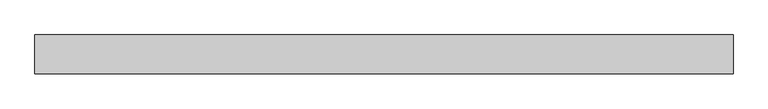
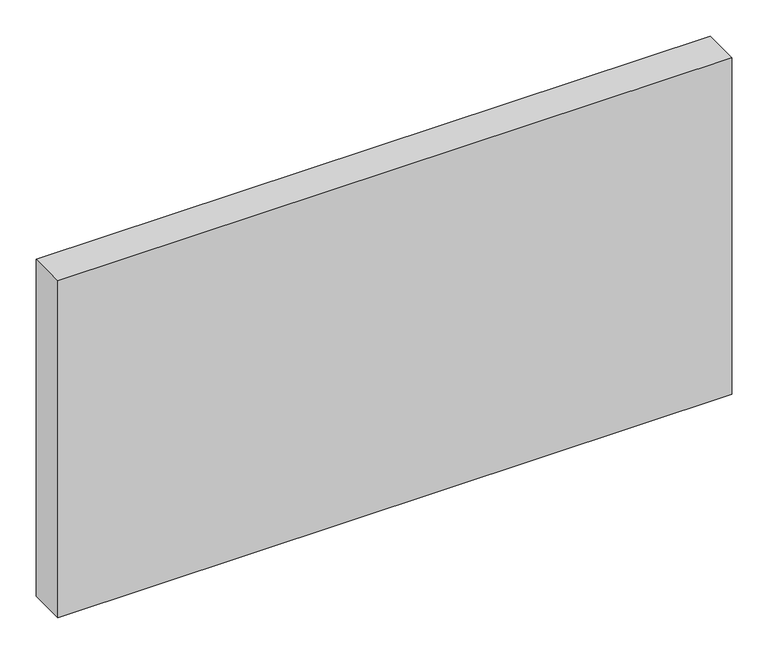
"""IFC4 building model written with IfcOpenShell, lengths in millimetres: plate geometry, Системная панель : Алюкобонд серый."""

import ifcopenshell
import ifcopenshell.guid

model = None  # the IFC model being written
_history = None  # IfcOwnerHistory: only IFC2X3 demands one
_inside = {}  # id of a spatial element -> (the spatial element, [elements in it])
_under = {}  # id of a project, library or spatial element -> (it, [spatial elements below it])
_declared = {}  # id of a project -> (the project, [libraries it declares])
_typed = {}  # id of a type object -> (the type object, [elements of that type])
_made_of = {}  # id of a material, layer set ... -> (it, [elements and type objects made of it])


def new_model(schema):
    """Start an empty IFC model of exactly this schema.

    Asked for "IFC4X3", IfcOpenShell would pick the latest addendum, in which some entities
    have other attributes; the version numbers below select the first issue.
    IFC2X3 requires an IfcOwnerHistory on every rooted entity: one is made here for all.
    """
    global model, _history
    if schema == "IFC4X3":
        model = ifcopenshell.file(schema_version=(4, 3, 0, 0))
    else:
        model = ifcopenshell.file(schema=schema)
    _inside.clear()
    _under.clear()
    _declared.clear()
    _typed.clear()
    _made_of.clear()
    _history = None
    if model.schema == "IFC2X3":
        org = make("IfcOrganization", Name="unknown")
        user = make(
            "IfcPersonAndOrganization",
            ThePerson=make("IfcPerson", FamilyName="unknown"),
            TheOrganization=org,
        )
        app = make(
            "IfcApplication",
            ApplicationDeveloper=org,
            Version="unknown",
            ApplicationFullName="unknown",
            ApplicationIdentifier="unknown",
        )
        _history = make(
            "IfcOwnerHistory",
            OwningUser=user,
            OwningApplication=app,
            ChangeAction="ADDED",
            CreationDate=0,
        )
    return model


def make(cls, **values):
    """One entity of the class cls with the attributes given. An attribute that is None is left unset."""
    return model.create_entity(
        cls, **{name: value for name, value in values.items() if value is not None}
    )


def rooted(cls, **values):
    """An entity with a GlobalId (a new one), such as an element, a storey or a relation."""
    return make(cls, GlobalId=ifcopenshell.guid.new(), OwnerHistory=_history, **values)


def si_unit(unit_type, name, prefix=None):
    """IfcSIUnit, for example si_unit("LENGTHUNIT", "METRE", prefix="MILLI")."""
    return make("IfcSIUnit", UnitType=unit_type, Prefix=prefix, Name=name)


def assignment(units):
    """IfcUnitAssignment: the units of a project."""
    return None if units is None else make("IfcUnitAssignment", Units=units)


def point(xyz):
    """IfcCartesianPoint."""
    return None if xyz is None else make("IfcCartesianPoint", Coordinates=xyz)


def direction(xyz):
    """IfcDirection."""
    return None if xyz is None else make("IfcDirection", DirectionRatios=xyz)


def frame(location, z_axis=None, x_axis=None):
    """IfcAxis2Placement3D, a coordinate frame: its origin and axes. An axis left out is left unset."""
    return make(
        "IfcAxis2Placement3D",
        Location=point(location),
        Axis=direction(z_axis),
        RefDirection=direction(x_axis),
    )


def origin():
    """The frame at (0, 0, 0) with its axes left unset."""
    return frame((0.0, 0.0, 0.0))


def origin_with_axes():
    """The frame at (0, 0, 0) with the z axis (0, 0, 1) and the x axis (1, 0, 0) written out."""
    return frame((0.0, 0.0, 0.0), z_axis=(0.0, 0.0, 1.0), x_axis=(1.0, 0.0, 0.0))


def place(relative_to, where):
    """IfcLocalPlacement: puts the frame where relative to a parent placement (None: the world)."""
    return make(
        "IfcLocalPlacement", PlacementRelTo=relative_to, RelativePlacement=where
    )


def context(
    kind, dimensions, precision=None, world=None, true_north=None, identifier=None
):
    """IfcGeometricRepresentationContext, for example the 3D "Model" context."""
    return make(
        "IfcGeometricRepresentationContext",
        ContextIdentifier=identifier,
        ContextType=kind,
        CoordinateSpaceDimension=dimensions,
        Precision=precision,
        WorldCoordinateSystem=world,
        TrueNorth=true_north,
    )


def project(units=None, contexts=None):
    """IfcProject with its units and contexts."""
    return rooted(
        "IfcProject",
        Name="project",
        RepresentationContexts=contexts,
        UnitsInContext=assignment(units),
    )


def spatial(cls, under=None, at=None, **own):
    """A site, building, storey or space (cls), placed at a placement, below another one or the project."""
    s = rooted(cls, ObjectPlacement=at, **own)
    if under is not None:
        _under.setdefault(under.id(), (under, []))[1].append(s)
    return s


def polyline(points):
    """IfcPolyline through the points."""
    return make("IfcPolyline", Points=[point(p) for p in points])


def outline(outer, holes=None, kind="AREA"):
    """IfcArbitraryClosedProfileDef: a profile drawn as a closed curve; with holes, ...WithVoids."""
    if holes is None:
        return make("IfcArbitraryClosedProfileDef", ProfileType=kind, OuterCurve=outer)
    return make(
        "IfcArbitraryProfileDefWithVoids",
        ProfileType=kind,
        OuterCurve=outer,
        InnerCurves=holes,
    )


def extrude(swept, where, along, depth):
    """IfcExtrudedAreaSolid: the profile swept, set in the frame where, extruded along a direction by depth."""
    return make(
        "IfcExtrudedAreaSolid",
        SweptArea=swept,
        Position=where,
        ExtrudedDirection=direction(along),
        Depth=depth,
    )


def shape(context_of_items, identifier, shape_type, items):
    """IfcShapeRepresentation: the items that make up one representation, for example the "Body"."""
    return make(
        "IfcShapeRepresentation",
        ContextOfItems=context_of_items,
        RepresentationIdentifier=identifier,
        RepresentationType=shape_type,
        Items=items,
    )


def source(mapping_origin, context_of_items, identifier, shape_type, items):
    """IfcRepresentationMap: a shape defined once, which mapped items show again and again."""
    return make(
        "IfcRepresentationMap",
        MappingOrigin=mapping_origin,
        MappedRepresentation=shape(context_of_items, identifier, shape_type, items),
    )


def transform(
    local_origin,
    x_axis=None,
    y_axis=None,
    z_axis=None,
    scale=None,
    scale2=None,
    scale3=None,
    uniform=True,
):
    """IfcCartesianTransformationOperator3D, or its non-uniform kind. x_axis, y_axis, z_axis: its Axis1, 2, 3."""
    if uniform:
        return make(
            "IfcCartesianTransformationOperator3D",
            Axis1=direction(x_axis),
            Axis2=direction(y_axis),
            LocalOrigin=point(local_origin),
            Scale=scale,
            Axis3=direction(z_axis),
        )
    return make(
        "IfcCartesianTransformationOperator3DnonUniform",
        Axis1=direction(x_axis),
        Axis2=direction(y_axis),
        LocalOrigin=point(local_origin),
        Scale=scale,
        Axis3=direction(z_axis),
        Scale2=scale2,
        Scale3=scale3,
    )


def mapped(mapping_source, mapping_target):
    """IfcMappedItem: shows the shape of a source again, moved by a transform."""
    return make(
        "IfcMappedItem", MappingSource=mapping_source, MappingTarget=mapping_target
    )


def made_of(thing, what):
    """Note that an element or type object is made of a material, layer set ...; save() writes the relation."""
    if what is not None:
        _made_of.setdefault(what.id(), (what, []))[1].append(thing)
    return thing


def element(
    cls,
    number,
    at=None,
    inside=None,
    cuts=None,
    type_object=None,
    material=None,
    context=None,
    identifier="Body",
    shape_type=None,
    held_by="IfcProductDefinitionShape",
    body=None,
    shapes=None,
    **own,
):
    """One element of the class cls, such as IfcWall. Its Tag is "e" and its number.

    at: its placement. inside: the storey or other place that contains it. cuts: it is an
    opening in that element (IfcRelVoidsElement). A single representation is given by context,
    identifier, shape_type and body (its items); several are given by shapes. held_by: the class
    of the entity that holds the representations. save() writes the other relations.
    """
    e = rooted(cls, Tag="e%d" % number, ObjectPlacement=at, **own)
    if body is not None:
        shapes = [shape(context, identifier, shape_type, body)]
    if shapes is not None:
        e.Representation = make(held_by, Representations=shapes)
    if inside is not None:
        _inside.setdefault(inside.id(), (inside, []))[1].append(e)
    if cuts is not None:
        rooted(
            "IfcRelVoidsElement", RelatingBuildingElement=cuts, RelatedOpeningElement=e
        )
    if type_object is not None:
        _typed.setdefault(type_object.id(), (type_object, []))[1].append(e)
    return made_of(e, material)


def aggregate(whole, parts):
    """IfcRelAggregates: a whole, such as a stair, and the parts it consists of."""
    return rooted("IfcRelAggregates", RelatingObject=whole, RelatedObjects=parts)


def save(model, path):
    """Write the relations noted so far, then the file.

    IfcRelAggregates (storeys below a building ...), IfcRelContainedInSpatialStructure (elements
    in a storey), IfcRelDefinesByType, IfcRelAssociatesMaterial and IfcRelDeclares: one each for
    every whole, place, type object, material and project.
    """
    for whole, parts in _under.values():
        aggregate(whole, parts)
    for where, things in _inside.values():
        rooted(
            "IfcRelContainedInSpatialStructure",
            RelatedElements=things,
            RelatingStructure=where,
        )
    for kind, things in _typed.values():
        rooted("IfcRelDefinesByType", RelatedObjects=things, RelatingType=kind)
    for what, things in _made_of.values():
        rooted("IfcRelAssociatesMaterial", RelatedObjects=things, RelatingMaterial=what)
    for by, libraries in _declared.values():
        rooted("IfcRelDeclares", RelatingContext=by, RelatedDefinitions=libraries)
    model.write(path)


def plate_d4622afd(model_context):
    return source(origin(), model_context, "Body", "SweptSolid", [
        extrude(outline(polyline([(539.7604728, -49.5), (-539.7604728, -49.5), (-539.7604728, 10.5), (539.7604728, 10.5), (539.7604728, -49.5)])), origin_with_axes(), (0.0, 0.0, 1.0), 570.0),
    ])


if __name__ == "__main__":
    model = new_model("IFC4")
    model_context = context("Model", 3, world=origin())
    ifc_project = project(units=[si_unit("LENGTHUNIT", "METRE", prefix="MILLI")], contexts=[model_context])
    site = spatial("IfcSite", under=ifc_project)
    building = spatial("IfcBuilding", under=site)
    placement = place(None, origin())
    plate_shape = plate_d4622afd(model_context)
    element("IfcPlate", 1, ObjectType="Системная панель : Алюкобонд серый", at=placement, inside=building, context=model_context, shape_type="MappedRepresentation", body=[
        mapped(plate_shape, transform((0.0, 0.0, 0.0), x_axis=(1.0, 0.0, 0.0), y_axis=(0.0, 1.0, 0.0), z_axis=(0.0, 0.0, 1.0))),
    ])
    save(model, "model.ifc")
